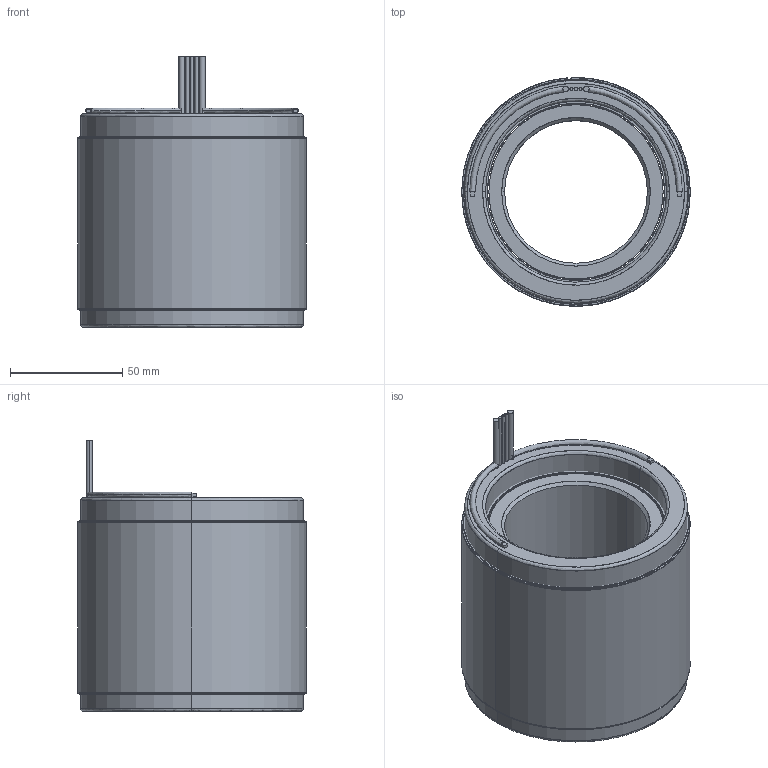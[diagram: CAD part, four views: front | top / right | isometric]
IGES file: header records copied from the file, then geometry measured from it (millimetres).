
Start section: SolidWorks IGES file using analytic representation for surfaces
Global section: file name: \\fs01.aveox.local\user documents\eng\My Documents\STANDARD STATOR ROTOR SETS\NEW DIRECT DRIVE MOTOR\4 OD 27S24P\6100339-06.IGS; native system: SolidWorks 2016; preprocessor: SolidWorks 2016; author: eng; date: 191023.141854; units: millimetre
Bounding box: 101.6 x 101.57 x 120.4 mm (x, y, z)
Surface area: 171867.7 mm2 (no closed solid volume)
Topology: 0 solids, 0 shells, 109 faces, 2502 edges, 2502 vertices
Faces by surface type: bspline 56, revolution 53
